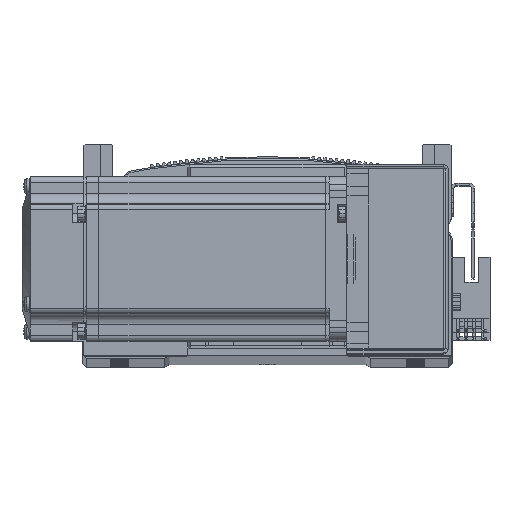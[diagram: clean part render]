
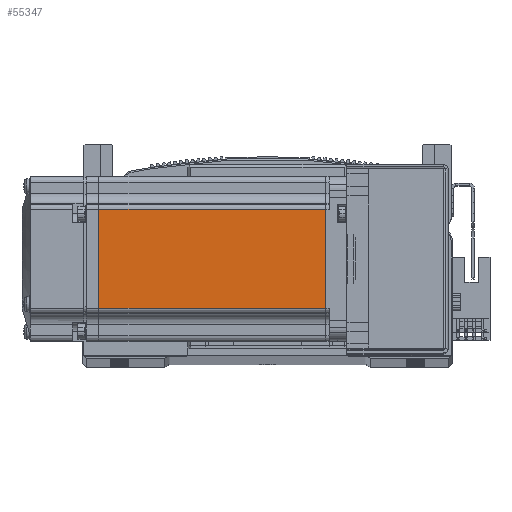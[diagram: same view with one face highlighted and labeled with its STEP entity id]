
A CAD part, top view. The second image highlights one B-rep face of the part: STEP entity #55347.
In plain terms, the highlighted planar face has unit normal (0, 0, 1) as drawn and (0, -1, 0) by its records, which use the part's own axes.
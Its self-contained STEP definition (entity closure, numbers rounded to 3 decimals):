
#12756 = VECTOR ( 'NONE', #15909, 1000. ) ;
#12788 = LINE ( 'NONE', #15934, #12756 ) ;
#12837 = LINE ( 'NONE', #15961, #12899 ) ;
#12859 = LINE ( 'NONE', #15963, #12877 ) ;
#12877 = VECTOR ( 'NONE', #15943, 1000. ) ;
#12899 = VECTOR ( 'NONE', #15942, 1000. ) ;
#13069 = VECTOR ( 'NONE', #16118, 1000. ) ;
#13100 = LINE ( 'NONE', #16111, #13069 ) ;
#15909 = DIRECTION ( 'NONE',  ( 0., 0., -1. ) ) ;
#15934 = CARTESIAN_POINT ( 'NONE',  ( -90.45, -30., 0. ) ) ;
#15942 = DIRECTION ( 'NONE',  ( -1., 0., 0. ) ) ;
#15943 = DIRECTION ( 'NONE',  ( 0., 0., -1. ) ) ;
#15961 = CARTESIAN_POINT ( 'NONE',  ( -6.5, -30., 18. ) ) ;
#15963 = CARTESIAN_POINT ( 'NONE',  ( -7.75, -30., 0. ) ) ;
#16111 = CARTESIAN_POINT ( 'NONE',  ( -6.5, -30., -18. ) ) ;
#16118 = DIRECTION ( 'NONE',  ( -1., 0., 0. ) ) ;
#20142 = FACE_OUTER_BOUND ( 'NONE', #65633, .T. ) ;
#20756 = CARTESIAN_POINT ( 'NONE',  ( -90.45, -30., -18. ) ) ;
#20762 = CARTESIAN_POINT ( 'NONE',  ( -90.45, -30., 18. ) ) ;
#20807 = CARTESIAN_POINT ( 'NONE',  ( -7.75, -30., -18. ) ) ;
#20842 = CARTESIAN_POINT ( 'NONE',  ( -7.75, -30., 18. ) ) ;
#39475 = ORIENTED_EDGE ( 'NONE', *, *, #47442, .F. ) ;
#39479 = ORIENTED_EDGE ( 'NONE', *, *, #47403, .T. ) ;
#39567 = ORIENTED_EDGE ( 'NONE', *, *, #47581, .F. ) ;
#39569 = ORIENTED_EDGE ( 'NONE', *, *, #47427, .T. ) ;
#47403 = EDGE_CURVE ( 'NONE', #58937, #58985, #12788, .T. ) ;
#47427 = EDGE_CURVE ( 'NONE', #59031, #58937, #12837, .T. ) ;
#47442 = EDGE_CURVE ( 'NONE', #59031, #58991, #12859, .T. ) ;
#47581 = EDGE_CURVE ( 'NONE', #58991, #58985, #13100, .T. ) ;
#55347 = ADVANCED_FACE ( 'NONE', ( #20142 ), #88273, .T. ) ;
#58937 = VERTEX_POINT ( 'NONE', #20762 ) ;
#58985 = VERTEX_POINT ( 'NONE', #20756 ) ;
#58991 = VERTEX_POINT ( 'NONE', #20807 ) ;
#59031 = VERTEX_POINT ( 'NONE', #20842 ) ;
#65633 = EDGE_LOOP ( 'NONE', ( #39475, #39569, #39479, #39567 ) ) ;
#72787 = AXIS2_PLACEMENT_3D ( 'NONE', #88255, #88266, #88240 ) ;
#88240 = DIRECTION ( 'NONE',  ( 0., 0., -1. ) ) ;
#88255 = CARTESIAN_POINT ( 'NONE',  ( -6.5, -30., -25. ) ) ;
#88266 = DIRECTION ( 'NONE',  ( 0., -1., 0. ) ) ;
#88273 = PLANE ( 'NONE',  #72787 ) ;
